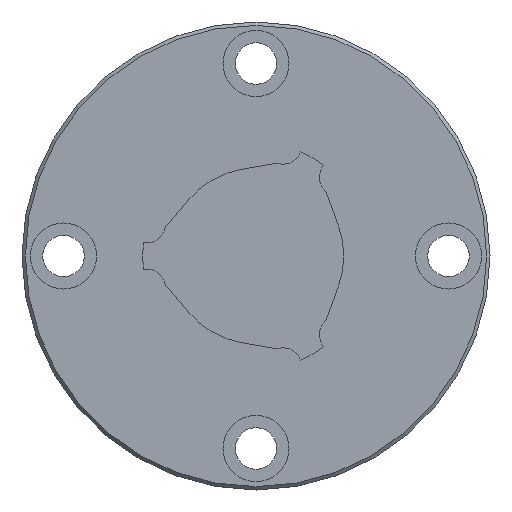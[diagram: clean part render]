
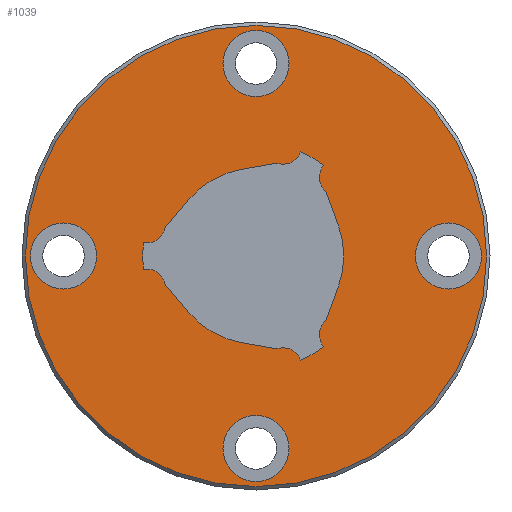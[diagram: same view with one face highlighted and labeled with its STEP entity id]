
A CAD part, left-side view. The second image highlights one B-rep face of the part: STEP entity #1039.
In plain terms, the highlighted planar face has unit normal (-1, 0, 0).
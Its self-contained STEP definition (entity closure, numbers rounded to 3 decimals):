
#45=PLANE('',#1156);
#91=LINE('',#1728,#151);
#92=LINE('',#1737,#152);
#93=LINE('',#1741,#153);
#94=LINE('',#1749,#154);
#95=LINE('',#1753,#155);
#96=LINE('',#1761,#156);
#151=VECTOR('',#1389,1000.);
#152=VECTOR('',#1396,1000.);
#153=VECTOR('',#1399,1000.);
#154=VECTOR('',#1406,1000.);
#155=VECTOR('',#1409,1000.);
#156=VECTOR('',#1416,1000.);
#289=ORIENTED_EDGE('',*,*,#513,.F.);
#290=ORIENTED_EDGE('',*,*,#514,.F.);
#291=ORIENTED_EDGE('',*,*,#515,.T.);
#292=ORIENTED_EDGE('',*,*,#516,.T.);
#293=ORIENTED_EDGE('',*,*,#517,.T.);
#294=ORIENTED_EDGE('',*,*,#518,.T.);
#295=ORIENTED_EDGE('',*,*,#519,.F.);
#296=ORIENTED_EDGE('',*,*,#520,.T.);
#297=ORIENTED_EDGE('',*,*,#521,.F.);
#298=ORIENTED_EDGE('',*,*,#522,.T.);
#299=ORIENTED_EDGE('',*,*,#523,.T.);
#300=ORIENTED_EDGE('',*,*,#524,.T.);
#301=ORIENTED_EDGE('',*,*,#525,.F.);
#302=ORIENTED_EDGE('',*,*,#526,.T.);
#303=ORIENTED_EDGE('',*,*,#527,.F.);
#304=ORIENTED_EDGE('',*,*,#528,.T.);
#305=ORIENTED_EDGE('',*,*,#529,.T.);
#306=ORIENTED_EDGE('',*,*,#530,.T.);
#307=ORIENTED_EDGE('',*,*,#531,.F.);
#308=ORIENTED_EDGE('',*,*,#532,.T.);
#309=ORIENTED_EDGE('',*,*,#533,.F.);
#310=ORIENTED_EDGE('',*,*,#534,.T.);
#311=ORIENTED_EDGE('',*,*,#535,.T.);
#513=EDGE_CURVE('',#634,#634,#725,.T.);
#514=EDGE_CURVE('',#635,#635,#726,.F.);
#515=EDGE_CURVE('',#636,#636,#727,.T.);
#516=EDGE_CURVE('',#637,#637,#728,.T.);
#517=EDGE_CURVE('',#638,#638,#729,.T.);
#518=EDGE_CURVE('',#639,#640,#91,.T.);
#519=EDGE_CURVE('',#641,#640,#730,.T.);
#520=EDGE_CURVE('',#641,#642,#731,.T.);
#521=EDGE_CURVE('',#643,#642,#732,.T.);
#522=EDGE_CURVE('',#643,#644,#92,.T.);
#523=EDGE_CURVE('',#644,#645,#733,.T.);
#524=EDGE_CURVE('',#645,#646,#93,.T.);
#525=EDGE_CURVE('',#647,#646,#734,.T.);
#526=EDGE_CURVE('',#647,#648,#735,.T.);
#527=EDGE_CURVE('',#649,#648,#736,.T.);
#528=EDGE_CURVE('',#649,#650,#94,.T.);
#529=EDGE_CURVE('',#650,#651,#737,.T.);
#530=EDGE_CURVE('',#651,#652,#95,.T.);
#531=EDGE_CURVE('',#653,#652,#738,.T.);
#532=EDGE_CURVE('',#653,#654,#739,.T.);
#533=EDGE_CURVE('',#655,#654,#740,.T.);
#534=EDGE_CURVE('',#655,#656,#96,.T.);
#535=EDGE_CURVE('',#656,#639,#741,.T.);
#634=VERTEX_POINT('',#1719);
#635=VERTEX_POINT('',#1721);
#636=VERTEX_POINT('',#1723);
#637=VERTEX_POINT('',#1725);
#638=VERTEX_POINT('',#1727);
#639=VERTEX_POINT('',#1729);
#640=VERTEX_POINT('',#1730);
#641=VERTEX_POINT('',#1732);
#642=VERTEX_POINT('',#1734);
#643=VERTEX_POINT('',#1736);
#644=VERTEX_POINT('',#1738);
#645=VERTEX_POINT('',#1740);
#646=VERTEX_POINT('',#1742);
#647=VERTEX_POINT('',#1744);
#648=VERTEX_POINT('',#1746);
#649=VERTEX_POINT('',#1748);
#650=VERTEX_POINT('',#1750);
#651=VERTEX_POINT('',#1752);
#652=VERTEX_POINT('',#1754);
#653=VERTEX_POINT('',#1756);
#654=VERTEX_POINT('',#1758);
#655=VERTEX_POINT('',#1760);
#656=VERTEX_POINT('',#1762);
#725=CIRCLE('',#1157,61.1);
#726=CIRCLE('',#1158,8.75);
#727=CIRCLE('',#1159,8.75);
#728=CIRCLE('',#1160,8.75);
#729=CIRCLE('',#1161,8.75);
#730=CIRCLE('',#1162,4.95);
#731=CIRCLE('',#1163,30.);
#732=CIRCLE('',#1164,4.95);
#733=CIRCLE('',#1165,23.25);
#734=CIRCLE('',#1166,4.95);
#735=CIRCLE('',#1167,30.);
#736=CIRCLE('',#1168,4.95);
#737=CIRCLE('',#1169,23.25);
#738=CIRCLE('',#1170,4.95);
#739=CIRCLE('',#1171,30.);
#740=CIRCLE('',#1172,4.95);
#741=CIRCLE('',#1173,23.25);
#797=EDGE_LOOP('',(#289));
#798=EDGE_LOOP('',(#290));
#799=EDGE_LOOP('',(#291));
#800=EDGE_LOOP('',(#292));
#801=EDGE_LOOP('',(#293));
#802=EDGE_LOOP('',(#294,#295,#296,#297,#298,#299,#300,#301,#302,#303,#304,
#305,#306,#307,#308,#309,#310,#311));
#899=FACE_BOUND('',#797,.T.);
#900=FACE_BOUND('',#798,.T.);
#901=FACE_BOUND('',#799,.T.);
#902=FACE_BOUND('',#800,.T.);
#903=FACE_BOUND('',#801,.T.);
#904=FACE_BOUND('',#802,.T.);
#1039=ADVANCED_FACE('',(#899,#900,#901,#902,#903,#904),#45,.F.);
#1156=AXIS2_PLACEMENT_3D('',#1717,#1377,#1378);
#1157=AXIS2_PLACEMENT_3D('',#1718,#1379,#1380);
#1158=AXIS2_PLACEMENT_3D('',#1720,#1381,#1382);
#1159=AXIS2_PLACEMENT_3D('',#1722,#1383,#1384);
#1160=AXIS2_PLACEMENT_3D('',#1724,#1385,#1386);
#1161=AXIS2_PLACEMENT_3D('',#1726,#1387,#1388);
#1162=AXIS2_PLACEMENT_3D('',#1731,#1390,#1391);
#1163=AXIS2_PLACEMENT_3D('',#1733,#1392,#1393);
#1164=AXIS2_PLACEMENT_3D('',#1735,#1394,#1395);
#1165=AXIS2_PLACEMENT_3D('',#1739,#1397,#1398);
#1166=AXIS2_PLACEMENT_3D('',#1743,#1400,#1401);
#1167=AXIS2_PLACEMENT_3D('',#1745,#1402,#1403);
#1168=AXIS2_PLACEMENT_3D('',#1747,#1404,#1405);
#1169=AXIS2_PLACEMENT_3D('',#1751,#1407,#1408);
#1170=AXIS2_PLACEMENT_3D('',#1755,#1410,#1411);
#1171=AXIS2_PLACEMENT_3D('',#1757,#1412,#1413);
#1172=AXIS2_PLACEMENT_3D('',#1759,#1414,#1415);
#1173=AXIS2_PLACEMENT_3D('',#1763,#1417,#1418);
#1377=DIRECTION('',(1.,0.,0.));
#1378=DIRECTION('',(0.,0.,-1.));
#1379=DIRECTION('',(1.,0.,0.));
#1380=DIRECTION('',(0.,0.,-1.));
#1381=DIRECTION('',(1.,0.,0.));
#1382=DIRECTION('',(0.,0.,-1.));
#1383=DIRECTION('',(1.,0.,0.));
#1384=DIRECTION('',(0.,0.,-1.));
#1385=DIRECTION('',(1.,0.,0.));
#1386=DIRECTION('',(0.,0.,-1.));
#1387=DIRECTION('',(1.,0.,0.));
#1388=DIRECTION('',(0.,0.,-1.));
#1389=DIRECTION('',(0.,-0.985,0.174));
#1390=DIRECTION('',(1.,0.,0.));
#1391=DIRECTION('',(0.,0.,-1.));
#1392=DIRECTION('',(1.,0.,0.));
#1393=DIRECTION('',(0.,0.,-1.));
#1394=DIRECTION('',(1.,0.,0.));
#1395=DIRECTION('',(0.,0.,-1.));
#1396=DIRECTION('',(0.,-0.342,-0.94));
#1397=DIRECTION('',(1.,0.,0.));
#1398=DIRECTION('',(0.,0.,-1.));
#1399=DIRECTION('',(0.,0.342,-0.94));
#1400=DIRECTION('',(1.,0.,0.));
#1401=DIRECTION('',(0.,0.,-1.));
#1402=DIRECTION('',(1.,0.,0.));
#1403=DIRECTION('',(0.,0.,-1.));
#1404=DIRECTION('',(1.,0.,0.));
#1405=DIRECTION('',(0.,0.,-1.));
#1406=DIRECTION('',(0.,0.985,0.174));
#1407=DIRECTION('',(1.,0.,0.));
#1408=DIRECTION('',(0.,0.,-1.));
#1409=DIRECTION('',(0.,0.643,0.766));
#1410=DIRECTION('',(1.,0.,0.));
#1411=DIRECTION('',(0.,0.,-1.));
#1412=DIRECTION('',(1.,0.,0.));
#1413=DIRECTION('',(0.,0.,-1.));
#1414=DIRECTION('',(1.,0.,0.));
#1415=DIRECTION('',(0.,0.,-1.));
#1416=DIRECTION('',(0.,-0.643,0.766));
#1417=DIRECTION('',(1.,0.,0.));
#1418=DIRECTION('',(0.,0.,-1.));
#1717=CARTESIAN_POINT('',(0.,0.,0.));
#1718=CARTESIAN_POINT('',(0.,0.,0.));
#1719=CARTESIAN_POINT('',(0.,0.,-61.1));
#1720=CARTESIAN_POINT('',(0.,51.,0.));
#1721=CARTESIAN_POINT('',(0.,51.,-8.75));
#1722=CARTESIAN_POINT('',(0.,0.,51.));
#1723=CARTESIAN_POINT('',(0.,0.,42.25));
#1724=CARTESIAN_POINT('',(0.,-51.,0.));
#1725=CARTESIAN_POINT('',(0.,-51.,-8.75));
#1726=CARTESIAN_POINT('',(0.,0.,-51.));
#1727=CARTESIAN_POINT('',(0.,0.,-59.75));
#1728=CARTESIAN_POINT('',(0.,4.037,22.897));
#1729=CARTESIAN_POINT('',(0.,4.037,22.897));
#1730=CARTESIAN_POINT('',(0.,-5.553,24.588));
#1731=CARTESIAN_POINT('',(0.,-7.161,29.27));
#1732=CARTESIAN_POINT('',(0.,-11.812,27.577));
#1733=CARTESIAN_POINT('',(0.,0.,0.));
#1734=CARTESIAN_POINT('',(0.,-17.976,24.018));
#1735=CARTESIAN_POINT('',(0.,-21.768,20.836));
#1736=CARTESIAN_POINT('',(0.,-18.517,17.103));
#1737=CARTESIAN_POINT('',(0.,-18.517,17.103));
#1738=CARTESIAN_POINT('',(0.,-21.848,7.952));
#1739=CARTESIAN_POINT('',(0.,0.,0.));
#1740=CARTESIAN_POINT('',(0.,-21.848,-7.952));
#1741=CARTESIAN_POINT('',(0.,-21.848,-7.952));
#1742=CARTESIAN_POINT('',(0.,-18.517,-17.103));
#1743=CARTESIAN_POINT('',(0.,-21.768,-20.836));
#1744=CARTESIAN_POINT('',(0.,-17.976,-24.018));
#1745=CARTESIAN_POINT('',(0.,0.,0.));
#1746=CARTESIAN_POINT('',(0.,-11.812,-27.577));
#1747=CARTESIAN_POINT('',(0.,-7.161,-29.27));
#1748=CARTESIAN_POINT('',(0.,-5.553,-24.588));
#1749=CARTESIAN_POINT('',(0.,-5.553,-24.588));
#1750=CARTESIAN_POINT('',(0.,4.037,-22.897));
#1751=CARTESIAN_POINT('',(0.,0.,0.));
#1752=CARTESIAN_POINT('',(0.,17.811,-14.945));
#1753=CARTESIAN_POINT('',(0.,17.811,-14.945));
#1754=CARTESIAN_POINT('',(0.,24.07,-7.485));
#1755=CARTESIAN_POINT('',(0.,28.929,-8.434));
#1756=CARTESIAN_POINT('',(0.,29.788,-3.559));
#1757=CARTESIAN_POINT('',(0.,0.,0.));
#1758=CARTESIAN_POINT('',(0.,29.788,3.559));
#1759=CARTESIAN_POINT('',(0.,28.929,8.434));
#1760=CARTESIAN_POINT('',(0.,24.07,7.485));
#1761=CARTESIAN_POINT('',(0.,24.07,7.485));
#1762=CARTESIAN_POINT('',(0.,17.811,14.945));
#1763=CARTESIAN_POINT('',(0.,0.,0.));
